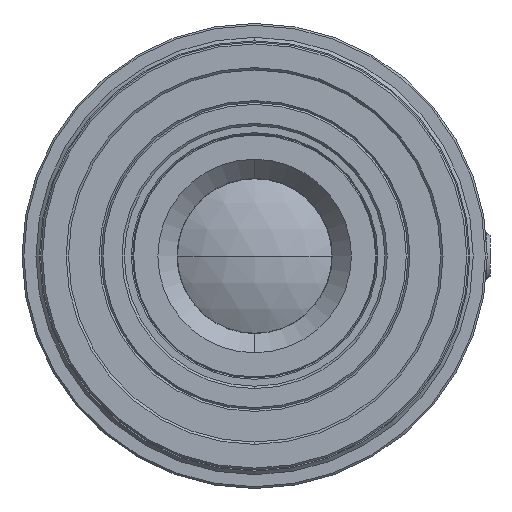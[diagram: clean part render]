
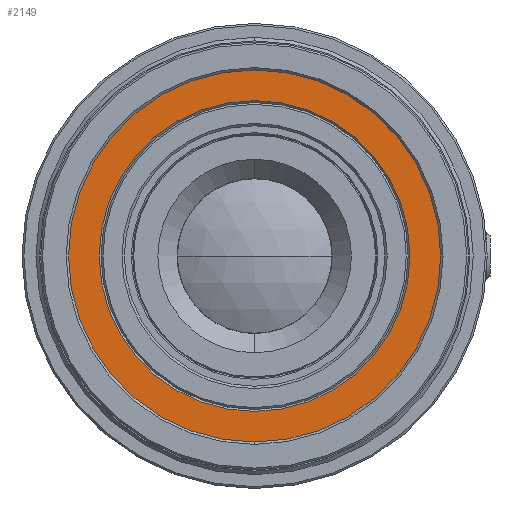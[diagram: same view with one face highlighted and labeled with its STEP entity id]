
A CAD part, left-side view. The second image highlights one B-rep face of the part: STEP entity #2149.
In plain terms, the highlighted planar face has unit normal (-1, 0, 0).
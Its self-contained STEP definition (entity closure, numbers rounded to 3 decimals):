
#236 = CARTESIAN_POINT ( 'NONE',  ( -9.39, 0., -16.7 ) ) ;
#261 = AXIS2_PLACEMENT_3D ( 'NONE', #2471, #4073, #495 ) ;
#324 = DIRECTION ( 'NONE',  ( -1., 0., 0. ) ) ;
#325 = CARTESIAN_POINT ( 'NONE',  ( -9.39, 0., 16.7 ) ) ;
#374 = AXIS2_PLACEMENT_3D ( 'NONE', #2334, #324, #1078 ) ;
#378 = VERTEX_POINT ( 'NONE', #3626 ) ;
#472 = AXIS2_PLACEMENT_3D ( 'NONE', #2034, #3999, #2861 ) ;
#495 = DIRECTION ( 'NONE',  ( 0., 0., 1. ) ) ;
#728 = VERTEX_POINT ( 'NONE', #4111 ) ;
#789 = DIRECTION ( 'NONE',  ( -1., 0., 0. ) ) ;
#861 = FACE_BOUND ( 'NONE', #2090, .T. ) ;
#997 = EDGE_CURVE ( 'NONE', #378, #728, #2372, .T. ) ;
#1078 = DIRECTION ( 'NONE',  ( 0., 0., 1. ) ) ;
#1174 = CIRCLE ( 'NONE', #3514, 16.7 ) ;
#1753 = EDGE_CURVE ( 'NONE', #4997, #4565, #2509, .T. ) ;
#1947 = CARTESIAN_POINT ( 'NONE',  ( -9.39, 0., 0. ) ) ;
#2026 = ORIENTED_EDGE ( 'NONE', *, *, #4993, .F. ) ;
#2034 = CARTESIAN_POINT ( 'NONE',  ( -9.39, 0., 0. ) ) ;
#2090 = EDGE_LOOP ( 'NONE', ( #2295, #2026 ) ) ;
#2149 = ADVANCED_FACE ( 'NONE', ( #861, #4053 ), #4467, .F. ) ;
#2295 = ORIENTED_EDGE ( 'NONE', *, *, #1753, .F. ) ;
#2334 = CARTESIAN_POINT ( 'NONE',  ( -9.39, 0., 0. ) ) ;
#2372 = CIRCLE ( 'NONE', #374, 20. ) ;
#2471 = CARTESIAN_POINT ( 'NONE',  ( -9.39, 0., 0. ) ) ;
#2509 = CIRCLE ( 'NONE', #261, 16.7 ) ;
#2518 = ORIENTED_EDGE ( 'NONE', *, *, #2619, .T. ) ;
#2619 = EDGE_CURVE ( 'NONE', #728, #378, #3806, .T. ) ;
#2679 = ORIENTED_EDGE ( 'NONE', *, *, #997, .T. ) ;
#2781 = EDGE_LOOP ( 'NONE', ( #2679, #2518 ) ) ;
#2861 = DIRECTION ( 'NONE',  ( 0., 0., 1. ) ) ;
#3288 = DIRECTION ( 'NONE',  ( 0., 0., -1. ) ) ;
#3514 = AXIS2_PLACEMENT_3D ( 'NONE', #1947, #789, #3907 ) ;
#3626 = CARTESIAN_POINT ( 'NONE',  ( -9.39, 0., 20. ) ) ;
#3681 = CARTESIAN_POINT ( 'NONE',  ( -9.39, 20., 0. ) ) ;
#3806 = CIRCLE ( 'NONE', #472, 20. ) ;
#3907 = DIRECTION ( 'NONE',  ( 0., 0., 1. ) ) ;
#3999 = DIRECTION ( 'NONE',  ( -1., 0., 0. ) ) ;
#4053 = FACE_OUTER_BOUND ( 'NONE', #2781, .T. ) ;
#4073 = DIRECTION ( 'NONE',  ( -1., 0., 0. ) ) ;
#4111 = CARTESIAN_POINT ( 'NONE',  ( -9.39, 0., -20. ) ) ;
#4445 = DIRECTION ( 'NONE',  ( 1., 0., 0. ) ) ;
#4467 = PLANE ( 'NONE',  #4569 ) ;
#4565 = VERTEX_POINT ( 'NONE', #236 ) ;
#4569 = AXIS2_PLACEMENT_3D ( 'NONE', #3681, #4445, #3288 ) ;
#4993 = EDGE_CURVE ( 'NONE', #4565, #4997, #1174, .T. ) ;
#4997 = VERTEX_POINT ( 'NONE', #325 ) ;
